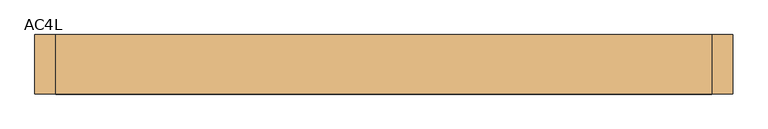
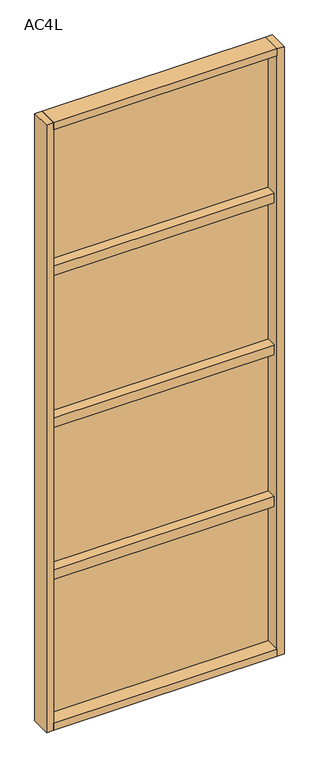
"""IFC4 building model written with IfcOpenShell, lengths in millimetres: door geometry, Mobiliário_Mobiliário de Escritório_Painel Lambri - AC4L (Completo)_Marelli : AC4L."""

from ifc_helpers import new_model, si_unit, frame, origin, origin_with_axes, place, context, project, spatial, polyline, outline, extrude, source, transform, mapped, element, save


def ac4l_01f99b59(model_context):
    return source(origin(), model_context, "Body", "SweptSolid", [
        extrude(outline(polyline([(470.0, 42.5), (470.0, -42.5), (-470.0, -42.5), (-470.0, 42.5), (470.0, 42.5)])), origin_with_axes(), (0.0, 0.0, 1.0), 30.0),
        extrude(outline(polyline([(470.0, 39.5), (470.0, 21.5), (-470.0, 21.5), (-470.0, 39.5), (470.0, 39.5)])), frame((0.0, 0.0, 30.0), z_axis=(0.0, 0.0, 1.0), x_axis=(1.0, 0.0, 0.0)), (0.0, 0.0, 1.0), 640.0),
        extrude(outline(polyline([(470.0, 21.5), (470.0, -21.5), (-470.0, -21.5), (-470.0, 21.5), (470.0, 21.5)])), frame((0.0, 0.0, 653.5), z_axis=(0.0, 0.0, 1.0), x_axis=(1.0, 0.0, 0.0)), (0.0, 0.0, 1.0), 43.0),
        extrude(outline(polyline([(470.0, 42.5), (470.0, -42.5), (-470.0, -42.5), (-470.0, 42.5), (470.0, 42.5)])), frame((0.0, 0.0, 2670.0), z_axis=(0.0, 0.0, 1.0), x_axis=(1.0, 0.0, 0.0)), (0.0, 0.0, 1.0), 30.0),
        extrude(outline(polyline([(470.0, 39.5), (470.0, 21.5), (-470.0, 21.5), (-470.0, 39.5), (470.0, 39.5)])), frame((0.0, 0.0, 1355.0), z_axis=(0.0, 0.0, 1.0), x_axis=(1.0, 0.0, 0.0)), (0.0, 0.0, 1.0), 665.0),
        extrude(outline(polyline([(470.0, 21.5), (470.0, -21.5), (-470.0, -21.5), (-470.0, 21.5), (470.0, 21.5)])), frame((0.0, 0.0, 2003.5), z_axis=(0.0, 0.0, 1.0), x_axis=(1.0, 0.0, 0.0)), (0.0, 0.0, 1.0), 43.0),
        extrude(outline(polyline([(470.0, 21.5), (470.0, -21.5), (-470.0, -21.5), (-470.0, 21.5), (470.0, 21.5)])), frame((0.0, 0.0, 1328.5), z_axis=(0.0, 0.0, 1.0), x_axis=(1.0, 0.0, 0.0)), (0.0, 0.0, 1.0), 43.0),
        extrude(outline(polyline([(-500.0, -42.5), (-500.0, 42.5), (-470.0, 42.5), (-470.0, -42.5), (-500.0, -42.5)])), origin_with_axes(), (0.0, 0.0, 1.0), 2700.0),
        extrude(outline(polyline([(500.0, -42.5), (470.0, -42.5), (470.0, 42.5), (500.0, 42.5), (500.0, -42.5)])), origin_with_axes(), (0.0, 0.0, 1.0), 2700.0),
        extrude(outline(polyline([(470.0, 39.5), (470.0, 21.5), (-470.0, 21.5), (-470.0, 39.5), (470.0, 39.5)])), frame((0.0, 0.0, 2030.0), z_axis=(0.0, 0.0, 1.0), x_axis=(1.0, 0.0, 0.0)), (0.0, 0.0, 1.0), 640.0),
        extrude(outline(polyline([(470.0, 39.5), (470.0, 21.5), (-470.0, 21.5), (-470.0, 39.5), (470.0, 39.5)])), frame((0.0, 0.0, 680.0), z_axis=(0.0, 0.0, 1.0), x_axis=(1.0, 0.0, 0.0)), (0.0, 0.0, 1.0), 665.0),
    ])


if __name__ == "__main__":
    model = new_model("IFC4")
    model_context = context("Model", 3, world=origin())
    ifc_project = project(units=[si_unit("LENGTHUNIT", "METRE", prefix="MILLI")], contexts=[model_context])
    site = spatial("IfcSite", under=ifc_project)
    building = spatial("IfcBuilding", under=site)
    placement = place(None, origin())
    ac4l_shape = ac4l_01f99b59(model_context)
    element("IfcDoor", 1, ObjectType="Mobiliário_Mobiliário de Escritório_Painel Lambri - AC4L (Completo)_Marelli : AC4L", at=placement, inside=building, context=model_context, shape_type="MappedRepresentation", body=[
        mapped(ac4l_shape, transform((0.0, 0.0, 0.0), x_axis=(1.0, 0.0, 0.0), y_axis=(0.0, 1.0, 0.0), z_axis=(0.0, 0.0, 1.0))),
    ])
    save(model, "model.ifc")
